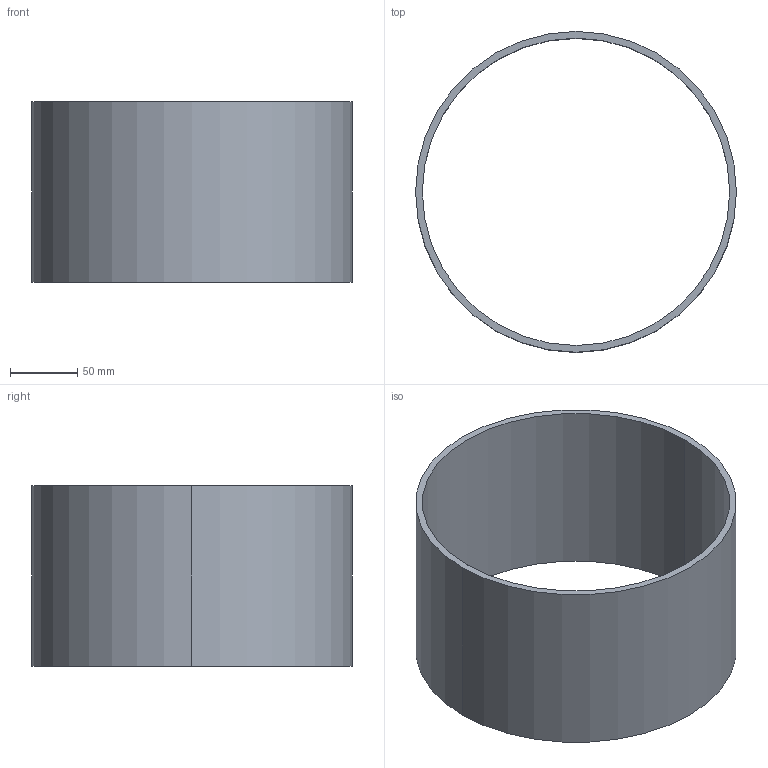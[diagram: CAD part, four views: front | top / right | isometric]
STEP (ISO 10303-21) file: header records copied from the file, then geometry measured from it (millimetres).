
FILE_DESCRIPTION(('CATIA V5 STEP Exchange'),'2;1');
FILE_NAME('C:\_Andres\UNIVERSIDAD\IQS\ASIGNATURAS\DAO\EXF\EXF-15161c\1original\Postius_Echeverri_Ej07-tabla_v19.stp','2016-03-04T21:16:35+00:00',('none'),('none'),'CATIA Version 5 Release 20 SP 1 (IN-10)','CATIA V5 STEP AP203','none');
FILE_SCHEMA(('CONFIG_CONTROL_DESIGN'));
Length unit declared in the file: millimetre
Products named in the file (1): Postius_Echeverri_Ej07-tabla_v19
Bounding box: 238 x 238 x 134 mm (x, y, z)
Volume: 490434 mm3; surface area: 203493.5 mm2
Topology: 1 solids, 1 shells, 6 faces, 13 edges, 10 vertices
Faces by surface type: cylinder 4, plane 2
Entity records: 208 total; most frequent: CARTESIAN_POINT 29, ORIENTED_EDGE 24, DIRECTION 23, AXIS2_PLACEMENT_3D 14, EDGE_CURVE 12, CIRCLE 8, EDGE_LOOP 8, VERTEX_POINT 8
